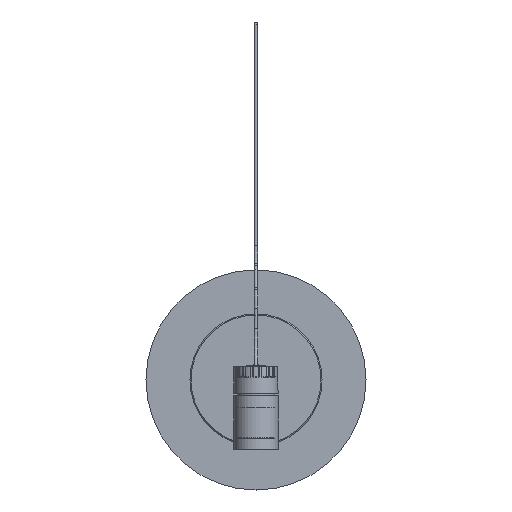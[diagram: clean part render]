
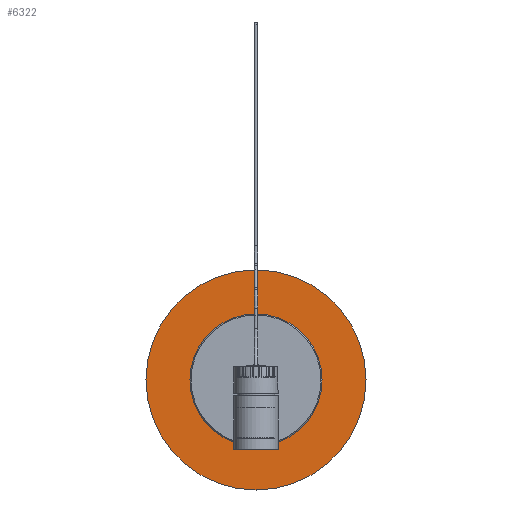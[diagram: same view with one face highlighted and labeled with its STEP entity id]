
A CAD part, top view. The second image highlights one B-rep face of the part: STEP entity #6322.
In plain terms, the highlighted planar face has unit normal (0, 0, 1).
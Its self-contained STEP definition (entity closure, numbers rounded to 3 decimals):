
#1182=PLANE('',#7331);
#1585=FACE_OUTER_BOUND('',#2031,.T.);
#2031=EDGE_LOOP('',(#5688));
#2567=CIRCLE('',#7329,100.);
#3079=VERTEX_POINT('',#12219);
#3954=EDGE_CURVE('',#3079,#3079,#2567,.F.);
#5688=ORIENTED_EDGE('',*,*,#3954,.T.);
#6322=ADVANCED_FACE('',(#1585),#1182,.T.);
#7329=AXIS2_PLACEMENT_3D('',#12220,#9510,#9511);
#7331=AXIS2_PLACEMENT_3D('',#12224,#9515,#9516);
#9510=DIRECTION('center_axis',(0.,0.,-1.));
#9511=DIRECTION('ref_axis',(1.,0.,0.));
#9515=DIRECTION('center_axis',(0.,0.,1.));
#9516=DIRECTION('ref_axis',(1.,0.,0.));
#12219=CARTESIAN_POINT('',(-100.,0.,6.));
#12220=CARTESIAN_POINT('Origin',(0.,0.,6.));
#12224=CARTESIAN_POINT('Origin',(0.,0.,6.));
